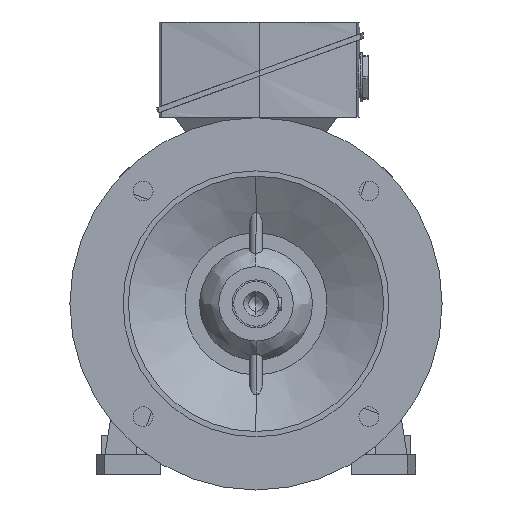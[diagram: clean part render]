
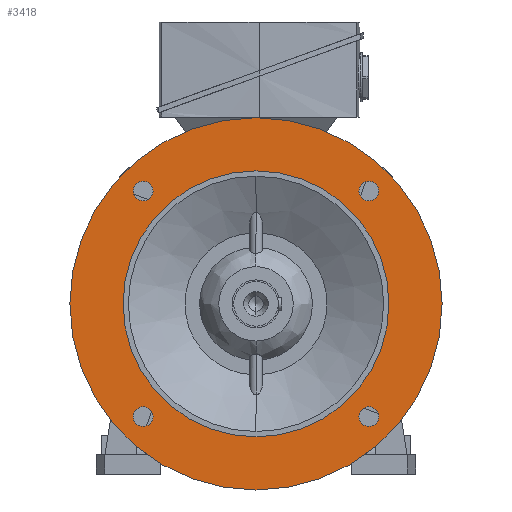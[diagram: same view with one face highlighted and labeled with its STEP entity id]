
A CAD part, left-side view. The second image highlights one B-rep face of the part: STEP entity #3418.
In plain terms, the highlighted planar face has unit normal (-1, 0, 0).
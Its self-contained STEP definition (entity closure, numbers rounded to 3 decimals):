
#393 = CARTESIAN_POINT ( 'NONE',  ( -80., 106.066, -96.816 ) ) ;
#1006 = CIRCLE ( 'NONE', #14840, 9.25 ) ;
#3418 = ADVANCED_FACE ( 'NONE', ( #24817, #24610, #24487, #24865, #24399, #24387 ), #38306, .T. ) ;
#3446 = AXIS2_PLACEMENT_3D ( 'NONE', #7470, #7393, #7381 ) ;
#3630 = VERTEX_POINT ( 'NONE', #33662 ) ;
#3791 = CARTESIAN_POINT ( 'NONE',  ( -80., 106.066, 96.816 ) ) ;
#4838 = EDGE_LOOP ( 'NONE', ( #27223, #30264 ) ) ;
#5165 = AXIS2_PLACEMENT_3D ( 'NONE', #37175, #37099, #37061 ) ;
#7156 = CARTESIAN_POINT ( 'NONE',  ( -80., 0., -125. ) ) ;
#7381 = DIRECTION ( 'NONE',  ( 0., 0., -1. ) ) ;
#7393 = DIRECTION ( 'NONE',  ( 1., 0., 0. ) ) ;
#7470 = CARTESIAN_POINT ( 'NONE',  ( -80., 106.066, 106.066 ) ) ;
#8931 = EDGE_CURVE ( 'NONE', #41091, #36966, #1006, .T. ) ;
#9550 = CARTESIAN_POINT ( 'NONE',  ( -80., -106.066, 106.066 ) ) ;
#9899 = ORIENTED_EDGE ( 'NONE', *, *, #52690, .T. ) ;
#10837 = CARTESIAN_POINT ( 'NONE',  ( -80., -106.066, -96.816 ) ) ;
#10864 = EDGE_CURVE ( 'NONE', #39757, #44577, #43277, .T. ) ;
#11293 = CIRCLE ( 'NONE', #47372, 9.25 ) ;
#11324 = DIRECTION ( 'NONE',  ( 0., 0., 1. ) ) ;
#11529 = EDGE_CURVE ( 'NONE', #19425, #38245, #53626, .T. ) ;
#11772 = EDGE_CURVE ( 'NONE', #28205, #3630, #49914, .T. ) ;
#12000 = EDGE_CURVE ( 'NONE', #44577, #39757, #43475, .T. ) ;
#12021 = EDGE_CURVE ( 'NONE', #36966, #41091, #42479, .T. ) ;
#12196 = EDGE_CURVE ( 'NONE', #19080, #45295, #37764, .T. ) ;
#12230 = ORIENTED_EDGE ( 'NONE', *, *, #12196, .T. ) ;
#12245 = EDGE_CURVE ( 'NONE', #45238, #38781, #37413, .T. ) ;
#12578 = DIRECTION ( 'NONE',  ( 1., 0., 0. ) ) ;
#13319 = EDGE_CURVE ( 'NONE', #38781, #45238, #11293, .T. ) ;
#13613 = CARTESIAN_POINT ( 'NONE',  ( -80., 106.066, -115.316 ) ) ;
#14840 = AXIS2_PLACEMENT_3D ( 'NONE', #26554, #26609, #26679 ) ;
#15229 = ORIENTED_EDGE ( 'NONE', *, *, #11529, .F. ) ;
#17268 = CIRCLE ( 'NONE', #21138, 9.25 ) ;
#18476 = ORIENTED_EDGE ( 'NONE', *, *, #52615, .F. ) ;
#19080 = VERTEX_POINT ( 'NONE', #7156 ) ;
#19425 = VERTEX_POINT ( 'NONE', #31204 ) ;
#21138 = AXIS2_PLACEMENT_3D ( 'NONE', #9550, #30293, #47598 ) ;
#21833 = ORIENTED_EDGE ( 'NONE', *, *, #11772, .T. ) ;
#23372 = EDGE_LOOP ( 'NONE', ( #15229, #18476 ) ) ;
#24387 = FACE_BOUND ( 'NONE', #43732, .T. ) ;
#24399 = FACE_BOUND ( 'NONE', #53713, .T. ) ;
#24487 = FACE_BOUND ( 'NONE', #40510, .T. ) ;
#24610 = FACE_OUTER_BOUND ( 'NONE', #23372, .T. ) ;
#24817 = FACE_BOUND ( 'NONE', #28136, .T. ) ;
#24865 = FACE_BOUND ( 'NONE', #4838, .T. ) ;
#24996 = ORIENTED_EDGE ( 'NONE', *, *, #25890, .T. ) ;
#25327 = CARTESIAN_POINT ( 'NONE',  ( -80., -106.066, 96.816 ) ) ;
#25890 = EDGE_CURVE ( 'NONE', #3630, #28205, #17268, .T. ) ;
#26554 = CARTESIAN_POINT ( 'NONE',  ( -80., 106.066, -106.066 ) ) ;
#26609 = DIRECTION ( 'NONE',  ( 1., 0., 0. ) ) ;
#26679 = DIRECTION ( 'NONE',  ( 0., 0., -1. ) ) ;
#27223 = ORIENTED_EDGE ( 'NONE', *, *, #12000, .T. ) ;
#28136 = EDGE_LOOP ( 'NONE', ( #9899, #12230 ) ) ;
#28205 = VERTEX_POINT ( 'NONE', #25327 ) ;
#29937 = CARTESIAN_POINT ( 'NONE',  ( -80., 0., -175. ) ) ;
#30264 = ORIENTED_EDGE ( 'NONE', *, *, #10864, .T. ) ;
#30293 = DIRECTION ( 'NONE',  ( 1., 0., 0. ) ) ;
#31022 = AXIS2_PLACEMENT_3D ( 'NONE', #35370, #35298, #35240 ) ;
#31204 = CARTESIAN_POINT ( 'NONE',  ( -80., 0., 175. ) ) ;
#32864 = ORIENTED_EDGE ( 'NONE', *, *, #12021, .T. ) ;
#32958 = CARTESIAN_POINT ( 'NONE',  ( -80., 0., 125. ) ) ;
#33662 = CARTESIAN_POINT ( 'NONE',  ( -80., -106.066, 115.316 ) ) ;
#33985 = CARTESIAN_POINT ( 'NONE',  ( -80., -106.066, -115.316 ) ) ;
#34087 = CARTESIAN_POINT ( 'NONE',  ( -80., 0., 0. ) ) ;
#35186 = ORIENTED_EDGE ( 'NONE', *, *, #8931, .T. ) ;
#35240 = DIRECTION ( 'NONE',  ( 0., 0., -1. ) ) ;
#35298 = DIRECTION ( 'NONE',  ( 1., 0., 0. ) ) ;
#35370 = CARTESIAN_POINT ( 'NONE',  ( -80., -106.066, -106.066 ) ) ;
#35913 = ORIENTED_EDGE ( 'NONE', *, *, #12245, .T. ) ;
#36966 = VERTEX_POINT ( 'NONE', #13613 ) ;
#37061 = DIRECTION ( 'NONE',  ( 0., 0., 1. ) ) ;
#37099 = DIRECTION ( 'NONE',  ( 1., 0., 0. ) ) ;
#37175 = CARTESIAN_POINT ( 'NONE',  ( -80., 0., 0. ) ) ;
#37413 = CIRCLE ( 'NONE', #31022, 9.25 ) ;
#37601 = DIRECTION ( 'NONE',  ( 0., 0., 1. ) ) ;
#37668 = DIRECTION ( 'NONE',  ( -1., 0., 0. ) ) ;
#37764 = CIRCLE ( 'NONE', #5165, 125. ) ;
#37788 = CARTESIAN_POINT ( 'NONE',  ( -80., 150., 0. ) ) ;
#38139 = ORIENTED_EDGE ( 'NONE', *, *, #13319, .T. ) ;
#38245 = VERTEX_POINT ( 'NONE', #29937 ) ;
#38306 = PLANE ( 'NONE',  #39828 ) ;
#38781 = VERTEX_POINT ( 'NONE', #10837 ) ;
#39757 = VERTEX_POINT ( 'NONE', #51180 ) ;
#39828 = AXIS2_PLACEMENT_3D ( 'NONE', #37788, #37668, #37601 ) ;
#40510 = EDGE_LOOP ( 'NONE', ( #21833, #24996 ) ) ;
#41091 = VERTEX_POINT ( 'NONE', #393 ) ;
#42380 = AXIS2_PLACEMENT_3D ( 'NONE', #43753, #43688, #43638 ) ;
#42479 = CIRCLE ( 'NONE', #52641, 9.25 ) ;
#42958 = AXIS2_PLACEMENT_3D ( 'NONE', #47777, #47764, #47640 ) ;
#43277 = CIRCLE ( 'NONE', #3446, 9.25 ) ;
#43475 = CIRCLE ( 'NONE', #52175, 9.25 ) ;
#43638 = DIRECTION ( 'NONE',  ( 0., 0., 1. ) ) ;
#43688 = DIRECTION ( 'NONE',  ( 1., 0., 0. ) ) ;
#43732 = EDGE_LOOP ( 'NONE', ( #35913, #38139 ) ) ;
#43753 = CARTESIAN_POINT ( 'NONE',  ( -80., 0., 0. ) ) ;
#43842 = CARTESIAN_POINT ( 'NONE',  ( -80., -106.066, -106.066 ) ) ;
#43941 = DIRECTION ( 'NONE',  ( 1., 0., 0. ) ) ;
#44012 = DIRECTION ( 'NONE',  ( 0., 0., -1. ) ) ;
#44577 = VERTEX_POINT ( 'NONE', #3791 ) ;
#45238 = VERTEX_POINT ( 'NONE', #33985 ) ;
#45295 = VERTEX_POINT ( 'NONE', #32958 ) ;
#45519 = DIRECTION ( 'NONE',  ( 0., 0., -1. ) ) ;
#45534 = DIRECTION ( 'NONE',  ( 1., 0., 0. ) ) ;
#45574 = CARTESIAN_POINT ( 'NONE',  ( -80., 106.066, -106.066 ) ) ;
#46561 = DIRECTION ( 'NONE',  ( 0., 0., -1. ) ) ;
#46569 = DIRECTION ( 'NONE',  ( 1., 0., 0. ) ) ;
#46696 = CARTESIAN_POINT ( 'NONE',  ( -80., 106.066, 106.066 ) ) ;
#47372 = AXIS2_PLACEMENT_3D ( 'NONE', #43842, #43941, #44012 ) ;
#47598 = DIRECTION ( 'NONE',  ( 0., 0., -1. ) ) ;
#47640 = DIRECTION ( 'NONE',  ( 0., 0., 1. ) ) ;
#47764 = DIRECTION ( 'NONE',  ( 1., 0., 0. ) ) ;
#47777 = CARTESIAN_POINT ( 'NONE',  ( -80., 0., 0. ) ) ;
#48846 = AXIS2_PLACEMENT_3D ( 'NONE', #34087, #12578, #11324 ) ;
#49914 = CIRCLE ( 'NONE', #49962, 9.25 ) ;
#49962 = AXIS2_PLACEMENT_3D ( 'NONE', #50291, #50386, #50441 ) ;
#50291 = CARTESIAN_POINT ( 'NONE',  ( -80., -106.066, 106.066 ) ) ;
#50386 = DIRECTION ( 'NONE',  ( 1., 0., 0. ) ) ;
#50441 = DIRECTION ( 'NONE',  ( 0., 0., -1. ) ) ;
#51180 = CARTESIAN_POINT ( 'NONE',  ( -80., 106.066, 115.316 ) ) ;
#51960 = CIRCLE ( 'NONE', #42380, 125. ) ;
#52175 = AXIS2_PLACEMENT_3D ( 'NONE', #46696, #46569, #46561 ) ;
#52615 = EDGE_CURVE ( 'NONE', #38245, #19425, #52896, .T. ) ;
#52641 = AXIS2_PLACEMENT_3D ( 'NONE', #45574, #45534, #45519 ) ;
#52690 = EDGE_CURVE ( 'NONE', #45295, #19080, #51960, .T. ) ;
#52896 = CIRCLE ( 'NONE', #42958, 175. ) ;
#53626 = CIRCLE ( 'NONE', #48846, 175. ) ;
#53713 = EDGE_LOOP ( 'NONE', ( #32864, #35186 ) ) ;
